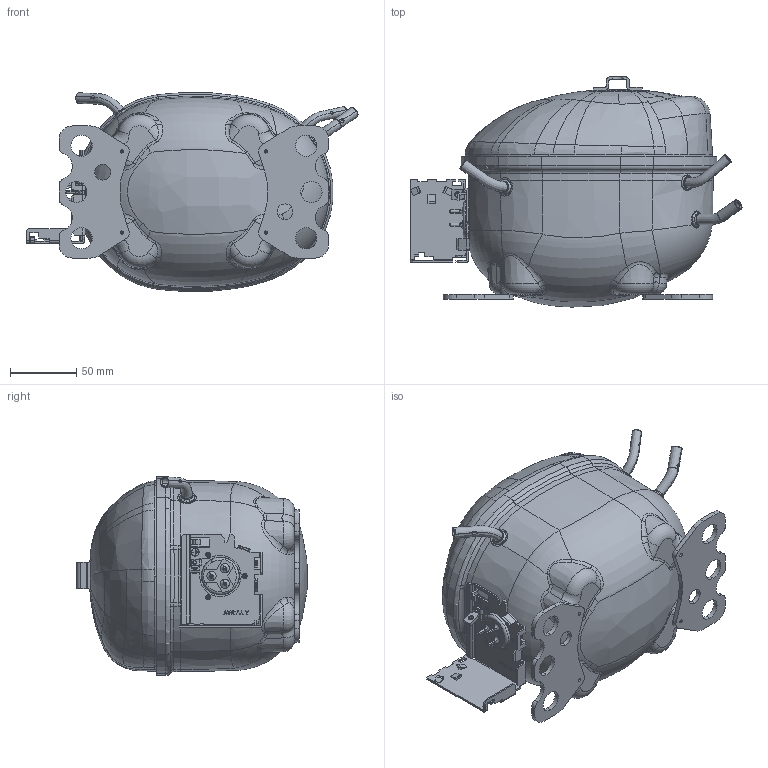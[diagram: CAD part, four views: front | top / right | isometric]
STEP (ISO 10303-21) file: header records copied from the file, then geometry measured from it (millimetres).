
FILE_DESCRIPTION((''),'2;1');
FILE_NAME('HXK70AA_SHELL_ASM','2024-02-08T13:18:11',('SKHC0505'),(''),'CREO PARAMETRIC BY PTC INC, 2022162','CREO PARAMETRIC BY PTC INC, 2022162','');
FILE_SCHEMA(('AP242_MANAGED_MODEL_BASED_3D_ENGINEERING_MIM_LF { 1 0 10303 442 1 1 4 }'));
Length unit declared in the file: millimetre
Products named in the file (15): 10915605_SHELL_PRESSED; 10919100_SPRING_PIN_FOR_SHELL; 16306700_FOOT_STRAP_MACHINED; 117-3617_BODY; 117-3617_PINS; 117-3617_GLASS_FUSED; 117-3617_ASM; 10539602_TERMINAL_FENCE; 16439600_SERVICE_TUBE_BENT; 16424601_SUCTION_TUBE_BENT; 16301000_DISCH_TUBE_BENT; 11306504_SHELL_HOUSING_KL_BENT_ASM; 10915100_COVER_KAPPA; 10538901_KAPPA_BRACKET; HXK70AA_SHELL_ASM
Assembly tree (22 placements, depth 4):
  HXK70AA_SHELL_ASM
    11306504_SHELL_HOUSING_KL_BENT_ASM
      10915605_SHELL_PRESSED
      10919100_SPRING_PIN_FOR_SHELL  x4
      16306700_FOOT_STRAP_MACHINED  x2
      117-3617_ASM
        117-3617_BODY
        117-3617_PINS  x3
        117-3617_GLASS_FUSED  x3
      10539602_TERMINAL_FENCE
      16439600_SERVICE_TUBE_BENT
      16424601_SUCTION_TUBE_BENT
      16301000_DISCH_TUBE_BENT
    10915100_COVER_KAPPA
    10538901_KAPPA_BRACKET
Bounding box: 251.32 x 174.25 x 150.73 mm (x, y, z)
Volume: 394076.6 mm3; surface area: 262537 mm2
Topology: 20 solids, 21 shells, 1421 faces, 3530 edges, 2134 vertices
Faces by surface type: bspline 517, plane 377, cylinder 265, torus 92, cone 92, extrusion 40, sphere 26, revolution 12
Entity records: 296905 total; most frequent: CARTESIAN_POINT 265339, ORIENTED_EDGE 6388, DIRECTION 4509, EDGE_CURVE 3196, VERTEX_POINT 1961, AXIS2_PLACEMENT_3D 1642, EDGE_LOOP 1363, FACE_OUTER_BOUND 1288
